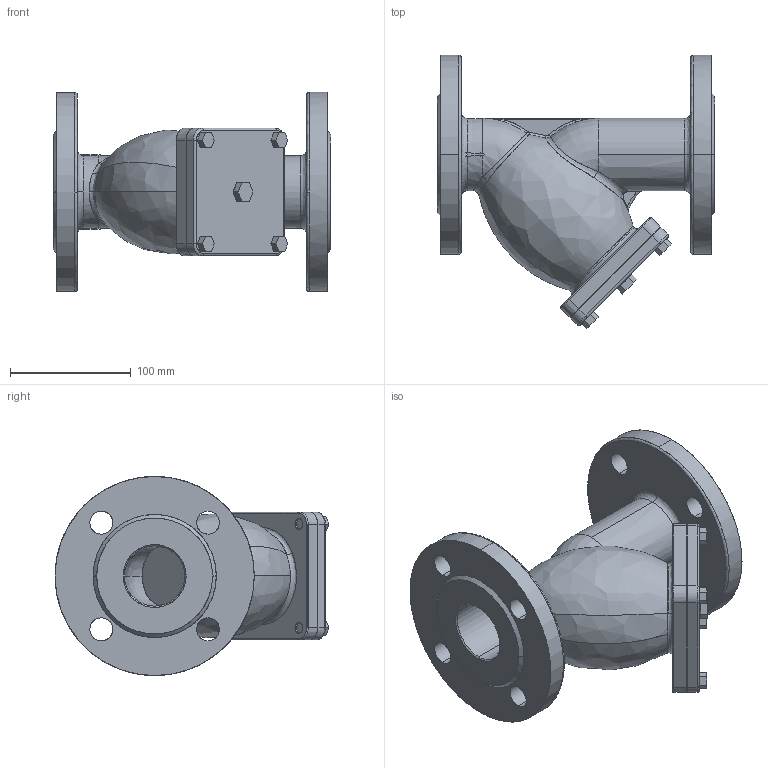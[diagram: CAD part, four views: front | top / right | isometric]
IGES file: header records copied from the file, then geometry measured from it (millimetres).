
Start section: SolidWorks IGES file using analytic representation for surfaces
Global section: file name: C:\Users\Administrator\Desktop\temp\F3240-DN50.IGS; native system: SolidWorks 2015; preprocessor: SolidWorks 2015; author: Administrator; date: 170423.145435; units: millimetre
Bounding box: 230 x 226.85 x 165 mm (x, y, z)
Surface area: 297959.6 mm2 (no closed solid volume)
Topology: 0 solids, 0 shells, 346 faces, 5385 edges, 5379 vertices
Faces by surface type: bspline 229, revolution 117
